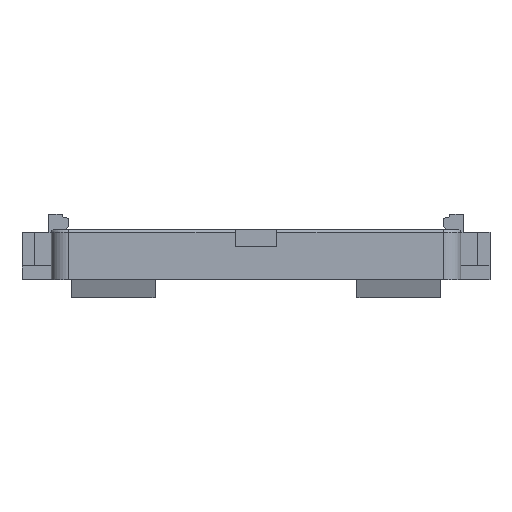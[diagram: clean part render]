
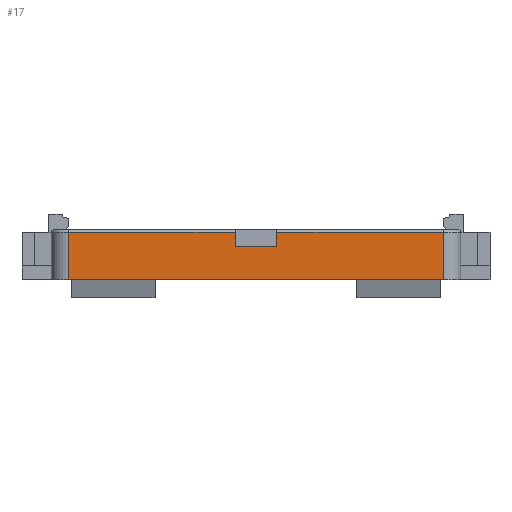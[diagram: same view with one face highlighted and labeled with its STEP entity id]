
A CAD part, left-side view. The second image highlights one B-rep face of the part: STEP entity #17.
In plain terms, the highlighted planar face has unit normal (-1, 0, 0).
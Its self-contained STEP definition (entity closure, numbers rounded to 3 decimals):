
#17 = ADVANCED_FACE('',(#18),#32,.F.);
#18 = FACE_BOUND('',#19,.F.);
#19 = EDGE_LOOP('',(#20,#55,#83,#111,#139,#167,#195,#223));
#20 = ORIENTED_EDGE('',*,*,#21,.F.);
#21 = EDGE_CURVE('',#22,#24,#26,.T.);
#22 = VERTEX_POINT('',#23);
#23 = CARTESIAN_POINT('',(-29.4,-26.9,6.8));
#24 = VERTEX_POINT('',#25);
#25 = CARTESIAN_POINT('',(-29.4,-3.,6.8));
#26 = SURFACE_CURVE('',#27,(#31,#43),.PCURVE_S1.);
#27 = LINE('',#28,#29);
#28 = CARTESIAN_POINT('',(-29.4,-26.9,6.8));
#29 = VECTOR('',#30,1.);
#30 = DIRECTION('',(0.,1.,0.));
#31 = PCURVE('',#32,#37);
#32 = PLANE('',#33);
#33 = AXIS2_PLACEMENT_3D('',#34,#35,#36);
#34 = CARTESIAN_POINT('',(-29.4,-29.4,0.));
#35 = DIRECTION('',(1.,0.,0.));
#36 = DIRECTION('',(0.,0.,1.));
#37 = DEFINITIONAL_REPRESENTATION('',(#38),#42);
#38 = LINE('',#39,#40);
#39 = CARTESIAN_POINT('',(6.8,-2.5));
#40 = VECTOR('',#41,1.);
#41 = DIRECTION('',(0.,-1.));
#42 = ( GEOMETRIC_REPRESENTATION_CONTEXT(2) 
PARAMETRIC_REPRESENTATION_CONTEXT() REPRESENTATION_CONTEXT('2D SPACE',''
  ) );
#43 = PCURVE('',#44,#49);
#44 = CYLINDRICAL_SURFACE('',#45,0.4);
#45 = AXIS2_PLACEMENT_3D('',#46,#47,#48);
#46 = CARTESIAN_POINT('',(-29.,-26.9,6.8));
#47 = DIRECTION('',(0.,1.,0.));
#48 = DIRECTION('',(-1.,0.,0.));
#49 = DEFINITIONAL_REPRESENTATION('',(#50),#54);
#50 = LINE('',#51,#52);
#51 = CARTESIAN_POINT('',(0.,0.));
#52 = VECTOR('',#53,1.);
#53 = DIRECTION('',(0.,1.));
#54 = ( GEOMETRIC_REPRESENTATION_CONTEXT(2) 
PARAMETRIC_REPRESENTATION_CONTEXT() REPRESENTATION_CONTEXT('2D SPACE',''
  ) );
#55 = ORIENTED_EDGE('',*,*,#56,.F.);
#56 = EDGE_CURVE('',#57,#22,#59,.T.);
#57 = VERTEX_POINT('',#58);
#58 = CARTESIAN_POINT('',(-29.4,-26.9,0.));
#59 = SURFACE_CURVE('',#60,(#64,#71),.PCURVE_S1.);
#60 = LINE('',#61,#62);
#61 = CARTESIAN_POINT('',(-29.4,-26.9,0.));
#62 = VECTOR('',#63,1.);
#63 = DIRECTION('',(0.,0.,1.));
#64 = PCURVE('',#32,#65);
#65 = DEFINITIONAL_REPRESENTATION('',(#66),#70);
#66 = LINE('',#67,#68);
#67 = CARTESIAN_POINT('',(0.,-2.5));
#68 = VECTOR('',#69,1.);
#69 = DIRECTION('',(1.,0.));
#70 = ( GEOMETRIC_REPRESENTATION_CONTEXT(2) 
PARAMETRIC_REPRESENTATION_CONTEXT() REPRESENTATION_CONTEXT('2D SPACE',''
  ) );
#71 = PCURVE('',#72,#77);
#72 = CYLINDRICAL_SURFACE('',#73,2.5);
#73 = AXIS2_PLACEMENT_3D('',#74,#75,#76);
#74 = CARTESIAN_POINT('',(-26.9,-26.9,0.));
#75 = DIRECTION('',(0.,0.,1.));
#76 = DIRECTION('',(-1.,0.,0.));
#77 = DEFINITIONAL_REPRESENTATION('',(#78),#82);
#78 = LINE('',#79,#80);
#79 = CARTESIAN_POINT('',(0.,0.));
#80 = VECTOR('',#81,1.);
#81 = DIRECTION('',(0.,1.));
#82 = ( GEOMETRIC_REPRESENTATION_CONTEXT(2) 
PARAMETRIC_REPRESENTATION_CONTEXT() REPRESENTATION_CONTEXT('2D SPACE',''
  ) );
#83 = ORIENTED_EDGE('',*,*,#84,.T.);
#84 = EDGE_CURVE('',#57,#85,#87,.T.);
#85 = VERTEX_POINT('',#86);
#86 = CARTESIAN_POINT('',(-29.4,26.9,0.));
#87 = SURFACE_CURVE('',#88,(#92,#99),.PCURVE_S1.);
#88 = LINE('',#89,#90);
#89 = CARTESIAN_POINT('',(-29.4,-29.4,0.));
#90 = VECTOR('',#91,1.);
#91 = DIRECTION('',(0.,1.,0.));
#92 = PCURVE('',#32,#93);
#93 = DEFINITIONAL_REPRESENTATION('',(#94),#98);
#94 = LINE('',#95,#96);
#95 = CARTESIAN_POINT('',(0.,0.));
#96 = VECTOR('',#97,1.);
#97 = DIRECTION('',(0.,-1.));
#98 = ( GEOMETRIC_REPRESENTATION_CONTEXT(2) 
PARAMETRIC_REPRESENTATION_CONTEXT() REPRESENTATION_CONTEXT('2D SPACE',''
  ) );
#99 = PCURVE('',#100,#105);
#100 = PLANE('',#101);
#101 = AXIS2_PLACEMENT_3D('',#102,#103,#104);
#102 = CARTESIAN_POINT('',(-29.4,-29.4,0.));
#103 = DIRECTION('',(0.,0.,1.));
#104 = DIRECTION('',(1.,0.,0.));
#105 = DEFINITIONAL_REPRESENTATION('',(#106),#110);
#106 = LINE('',#107,#108);
#107 = CARTESIAN_POINT('',(0.,0.));
#108 = VECTOR('',#109,1.);
#109 = DIRECTION('',(0.,1.));
#110 = ( GEOMETRIC_REPRESENTATION_CONTEXT(2) 
PARAMETRIC_REPRESENTATION_CONTEXT() REPRESENTATION_CONTEXT('2D SPACE',''
  ) );
#111 = ORIENTED_EDGE('',*,*,#112,.T.);
#112 = EDGE_CURVE('',#85,#113,#115,.T.);
#113 = VERTEX_POINT('',#114);
#114 = CARTESIAN_POINT('',(-29.4,26.9,6.8));
#115 = SURFACE_CURVE('',#116,(#120,#127),.PCURVE_S1.);
#116 = LINE('',#117,#118);
#117 = CARTESIAN_POINT('',(-29.4,26.9,0.));
#118 = VECTOR('',#119,1.);
#119 = DIRECTION('',(0.,0.,1.));
#120 = PCURVE('',#32,#121);
#121 = DEFINITIONAL_REPRESENTATION('',(#122),#126);
#122 = LINE('',#123,#124);
#123 = CARTESIAN_POINT('',(0.,-56.3));
#124 = VECTOR('',#125,1.);
#125 = DIRECTION('',(1.,0.));
#126 = ( GEOMETRIC_REPRESENTATION_CONTEXT(2) 
PARAMETRIC_REPRESENTATION_CONTEXT() REPRESENTATION_CONTEXT('2D SPACE',''
  ) );
#127 = PCURVE('',#128,#133);
#128 = CYLINDRICAL_SURFACE('',#129,2.5);
#129 = AXIS2_PLACEMENT_3D('',#130,#131,#132);
#130 = CARTESIAN_POINT('',(-26.9,26.9,0.));
#131 = DIRECTION('',(0.,0.,1.));
#132 = DIRECTION('',(-1.,0.,0.));
#133 = DEFINITIONAL_REPRESENTATION('',(#134),#138);
#134 = LINE('',#135,#136);
#135 = CARTESIAN_POINT('',(6.283,0.));
#136 = VECTOR('',#137,1.);
#137 = DIRECTION('',(-0.,1.));
#138 = ( GEOMETRIC_REPRESENTATION_CONTEXT(2) 
PARAMETRIC_REPRESENTATION_CONTEXT() REPRESENTATION_CONTEXT('2D SPACE',''
  ) );
#139 = ORIENTED_EDGE('',*,*,#140,.F.);
#140 = EDGE_CURVE('',#141,#113,#143,.T.);
#141 = VERTEX_POINT('',#142);
#142 = CARTESIAN_POINT('',(-29.4,3.,6.8));
#143 = SURFACE_CURVE('',#144,(#148,#155),.PCURVE_S1.);
#144 = LINE('',#145,#146);
#145 = CARTESIAN_POINT('',(-29.4,-26.9,6.8));
#146 = VECTOR('',#147,1.);
#147 = DIRECTION('',(0.,1.,0.));
#148 = PCURVE('',#32,#149);
#149 = DEFINITIONAL_REPRESENTATION('',(#150),#154);
#150 = LINE('',#151,#152);
#151 = CARTESIAN_POINT('',(6.8,-2.5));
#152 = VECTOR('',#153,1.);
#153 = DIRECTION('',(0.,-1.));
#154 = ( GEOMETRIC_REPRESENTATION_CONTEXT(2) 
PARAMETRIC_REPRESENTATION_CONTEXT() REPRESENTATION_CONTEXT('2D SPACE',''
  ) );
#155 = PCURVE('',#156,#161);
#156 = CYLINDRICAL_SURFACE('',#157,0.4);
#157 = AXIS2_PLACEMENT_3D('',#158,#159,#160);
#158 = CARTESIAN_POINT('',(-29.,-26.9,6.8));
#159 = DIRECTION('',(0.,1.,0.));
#160 = DIRECTION('',(-1.,0.,0.));
#161 = DEFINITIONAL_REPRESENTATION('',(#162),#166);
#162 = LINE('',#163,#164);
#163 = CARTESIAN_POINT('',(0.,0.));
#164 = VECTOR('',#165,1.);
#165 = DIRECTION('',(0.,1.));
#166 = ( GEOMETRIC_REPRESENTATION_CONTEXT(2) 
PARAMETRIC_REPRESENTATION_CONTEXT() REPRESENTATION_CONTEXT('2D SPACE',''
  ) );
#167 = ORIENTED_EDGE('',*,*,#168,.F.);
#168 = EDGE_CURVE('',#169,#141,#171,.T.);
#169 = VERTEX_POINT('',#170);
#170 = CARTESIAN_POINT('',(-29.4,3.,4.8));
#171 = SURFACE_CURVE('',#172,(#176,#183),.PCURVE_S1.);
#172 = LINE('',#173,#174);
#173 = CARTESIAN_POINT('',(-29.4,3.,2.4));
#174 = VECTOR('',#175,1.);
#175 = DIRECTION('',(0.,0.,1.));
#176 = PCURVE('',#32,#177);
#177 = DEFINITIONAL_REPRESENTATION('',(#178),#182);
#178 = LINE('',#179,#180);
#179 = CARTESIAN_POINT('',(2.4,-32.4));
#180 = VECTOR('',#181,1.);
#181 = DIRECTION('',(1.,0.));
#182 = ( GEOMETRIC_REPRESENTATION_CONTEXT(2) 
PARAMETRIC_REPRESENTATION_CONTEXT() REPRESENTATION_CONTEXT('2D SPACE',''
  ) );
#183 = PCURVE('',#184,#189);
#184 = PLANE('',#185);
#185 = AXIS2_PLACEMENT_3D('',#186,#187,#188);
#186 = CARTESIAN_POINT('',(-30.4,3.,4.8));
#187 = DIRECTION('',(0.,1.,0.));
#188 = DIRECTION('',(0.,-0.,1.));
#189 = DEFINITIONAL_REPRESENTATION('',(#190),#194);
#190 = LINE('',#191,#192);
#191 = CARTESIAN_POINT('',(-2.4,1.));
#192 = VECTOR('',#193,1.);
#193 = DIRECTION('',(1.,0.));
#194 = ( GEOMETRIC_REPRESENTATION_CONTEXT(2) 
PARAMETRIC_REPRESENTATION_CONTEXT() REPRESENTATION_CONTEXT('2D SPACE',''
  ) );
#195 = ORIENTED_EDGE('',*,*,#196,.T.);
#196 = EDGE_CURVE('',#169,#197,#199,.T.);
#197 = VERTEX_POINT('',#198);
#198 = CARTESIAN_POINT('',(-29.4,-3.,4.8));
#199 = SURFACE_CURVE('',#200,(#204,#211),.PCURVE_S1.);
#200 = LINE('',#201,#202);
#201 = CARTESIAN_POINT('',(-29.4,-16.2,4.8));
#202 = VECTOR('',#203,1.);
#203 = DIRECTION('',(0.,-1.,0.));
#204 = PCURVE('',#32,#205);
#205 = DEFINITIONAL_REPRESENTATION('',(#206),#210);
#206 = LINE('',#207,#208);
#207 = CARTESIAN_POINT('',(4.8,-13.2));
#208 = VECTOR('',#209,1.);
#209 = DIRECTION('',(0.,1.));
#210 = ( GEOMETRIC_REPRESENTATION_CONTEXT(2) 
PARAMETRIC_REPRESENTATION_CONTEXT() REPRESENTATION_CONTEXT('2D SPACE',''
  ) );
#211 = PCURVE('',#212,#217);
#212 = PLANE('',#213);
#213 = AXIS2_PLACEMENT_3D('',#214,#215,#216);
#214 = CARTESIAN_POINT('',(-30.4,-3.,4.8));
#215 = DIRECTION('',(0.,0.,1.));
#216 = DIRECTION('',(1.,0.,0.));
#217 = DEFINITIONAL_REPRESENTATION('',(#218),#222);
#218 = LINE('',#219,#220);
#219 = CARTESIAN_POINT('',(1.,-13.2));
#220 = VECTOR('',#221,1.);
#221 = DIRECTION('',(0.,-1.));
#222 = ( GEOMETRIC_REPRESENTATION_CONTEXT(2) 
PARAMETRIC_REPRESENTATION_CONTEXT() REPRESENTATION_CONTEXT('2D SPACE',''
  ) );
#223 = ORIENTED_EDGE('',*,*,#224,.T.);
#224 = EDGE_CURVE('',#197,#24,#225,.T.);
#225 = SURFACE_CURVE('',#226,(#230,#237),.PCURVE_S1.);
#226 = LINE('',#227,#228);
#227 = CARTESIAN_POINT('',(-29.4,-3.,2.4));
#228 = VECTOR('',#229,1.);
#229 = DIRECTION('',(0.,0.,1.));
#230 = PCURVE('',#32,#231);
#231 = DEFINITIONAL_REPRESENTATION('',(#232),#236);
#232 = LINE('',#233,#234);
#233 = CARTESIAN_POINT('',(2.4,-26.4));
#234 = VECTOR('',#235,1.);
#235 = DIRECTION('',(1.,0.));
#236 = ( GEOMETRIC_REPRESENTATION_CONTEXT(2) 
PARAMETRIC_REPRESENTATION_CONTEXT() REPRESENTATION_CONTEXT('2D SPACE',''
  ) );
#237 = PCURVE('',#238,#243);
#238 = PLANE('',#239);
#239 = AXIS2_PLACEMENT_3D('',#240,#241,#242);
#240 = CARTESIAN_POINT('',(-30.4,-3.,4.8));
#241 = DIRECTION('',(0.,1.,0.));
#242 = DIRECTION('',(0.,-0.,1.));
#243 = DEFINITIONAL_REPRESENTATION('',(#244),#248);
#244 = LINE('',#245,#246);
#245 = CARTESIAN_POINT('',(-2.4,1.));
#246 = VECTOR('',#247,1.);
#247 = DIRECTION('',(1.,0.));
#248 = ( GEOMETRIC_REPRESENTATION_CONTEXT(2) 
PARAMETRIC_REPRESENTATION_CONTEXT() REPRESENTATION_CONTEXT('2D SPACE',''
  ) );
